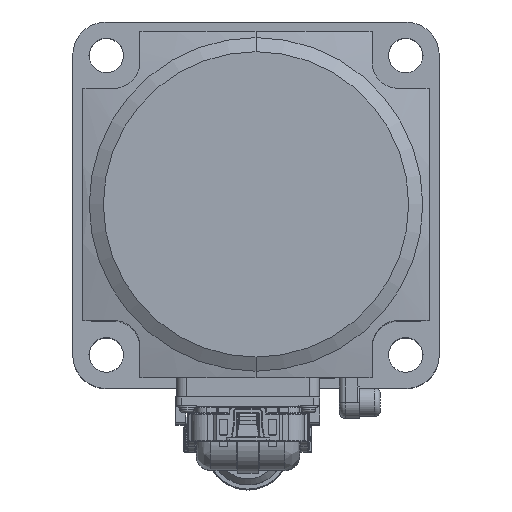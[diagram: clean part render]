
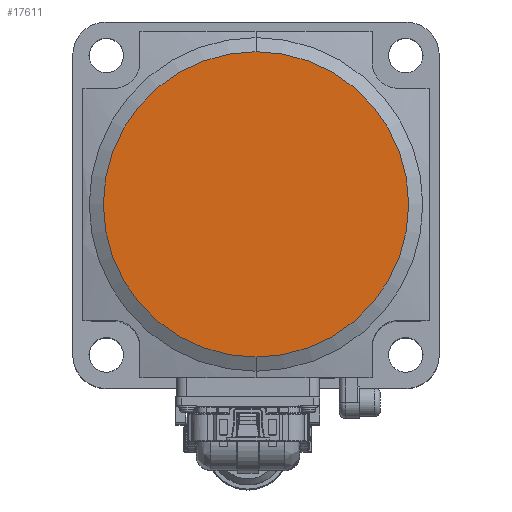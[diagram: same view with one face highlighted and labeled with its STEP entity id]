
A CAD part, top view. The second image highlights one B-rep face of the part: STEP entity #17611.
In plain terms, the highlighted planar face has unit normal (0, 0, 1).
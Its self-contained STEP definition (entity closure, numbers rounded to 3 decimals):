
#809 = AXIS2_PLACEMENT_3D ( 'NONE', #24397, #24923, #35878 ) ;
#2111 = FACE_OUTER_BOUND ( 'NONE', #4848, .T. ) ;
#3226 = DIRECTION ( 'NONE',  ( 0., 1., 0. ) ) ;
#3292 = EDGE_CURVE ( 'NONE', #37062, #27313, #23754, .T. ) ;
#4446 = DIRECTION ( 'NONE',  ( 0., 1., 0. ) ) ;
#4848 = EDGE_LOOP ( 'NONE', ( #23569, #6849 ) ) ;
#5388 = CARTESIAN_POINT ( 'NONE',  ( 0., -37.5, 125.5 ) ) ;
#5653 = AXIS2_PLACEMENT_3D ( 'NONE', #20032, #14201, #3226 ) ;
#5923 = CIRCLE ( 'NONE', #7723, 37.5 ) ;
#6849 = ORIENTED_EDGE ( 'NONE', *, *, #10319, .F. ) ;
#7723 = AXIS2_PLACEMENT_3D ( 'NONE', #29725, #32390, #4446 ) ;
#10319 = EDGE_CURVE ( 'NONE', #27313, #37062, #5923, .T. ) ;
#14201 = DIRECTION ( 'NONE',  ( 0., 0., -1. ) ) ;
#17611 = ADVANCED_FACE ( 'NONE', ( #2111 ), #33052, .F. ) ;
#20032 = CARTESIAN_POINT ( 'NONE',  ( 0., 0., 125.5 ) ) ;
#23569 = ORIENTED_EDGE ( 'NONE', *, *, #3292, .F. ) ;
#23754 = CIRCLE ( 'NONE', #5653, 37.5 ) ;
#24397 = CARTESIAN_POINT ( 'NONE',  ( 42.5, -42.5, 125.5 ) ) ;
#24923 = DIRECTION ( 'NONE',  ( 0., 0., -1. ) ) ;
#26888 = CARTESIAN_POINT ( 'NONE',  ( 0., 37.5, 125.5 ) ) ;
#27313 = VERTEX_POINT ( 'NONE', #5388 ) ;
#29725 = CARTESIAN_POINT ( 'NONE',  ( 0., 0., 125.5 ) ) ;
#32390 = DIRECTION ( 'NONE',  ( 0., 0., -1. ) ) ;
#33052 = PLANE ( 'NONE',  #809 ) ;
#35878 = DIRECTION ( 'NONE',  ( -1., 0., 0. ) ) ;
#37062 = VERTEX_POINT ( 'NONE', #26888 ) ;
